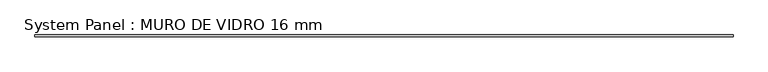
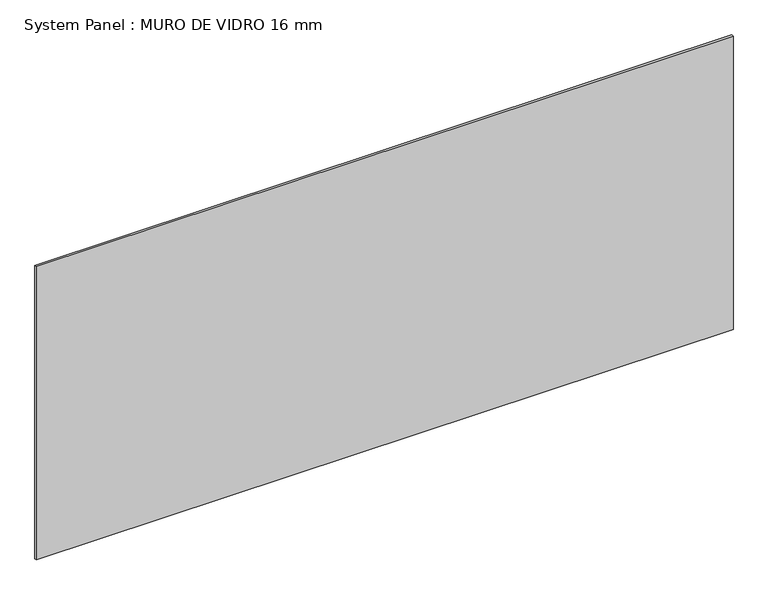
"""IFC4 building model written with IfcOpenShell, lengths in millimetres: plate geometry, System Panel : MURO DE VIDRO 16 mm."""

from ifc_helpers import new_model, si_unit, origin, origin_with_axes, place, context, project, spatial, polyline, outline, extrude, source, transform, mapped, element, save


def system_panel_muro_de_vidro_16_mm_4851632e(model_context):
    return source(origin(), model_context, "Body", "SweptSolid", [
        extrude(outline(polyline([(2807.164068, -8.0), (-2807.164068, -8.0), (-2807.164068, 8.0), (2807.164068, 8.0), (2807.164068, -8.0)])), origin_with_axes(), (0.0, 0.0, 1.0), 2500.0),
    ])


if __name__ == "__main__":
    model = new_model("IFC4")
    model_context = context("Model", 3, world=origin())
    ifc_project = project(units=[si_unit("LENGTHUNIT", "METRE", prefix="MILLI")], contexts=[model_context])
    site = spatial("IfcSite", under=ifc_project)
    building = spatial("IfcBuilding", under=site)
    placement = place(None, origin())
    system_panel_muro_de_vidro_16_mm_shape = system_panel_muro_de_vidro_16_mm_4851632e(model_context)
    element("IfcPlate", 1, ObjectType="System Panel : MURO DE VIDRO 16 mm", at=placement, inside=building, context=model_context, shape_type="MappedRepresentation", body=[
        mapped(system_panel_muro_de_vidro_16_mm_shape, transform((0.0, 0.0, 0.0), x_axis=(1.0, 0.0, 0.0), y_axis=(0.0, 1.0, 0.0), z_axis=(0.0, 0.0, 1.0))),
    ])
    save(model, "model.ifc")
